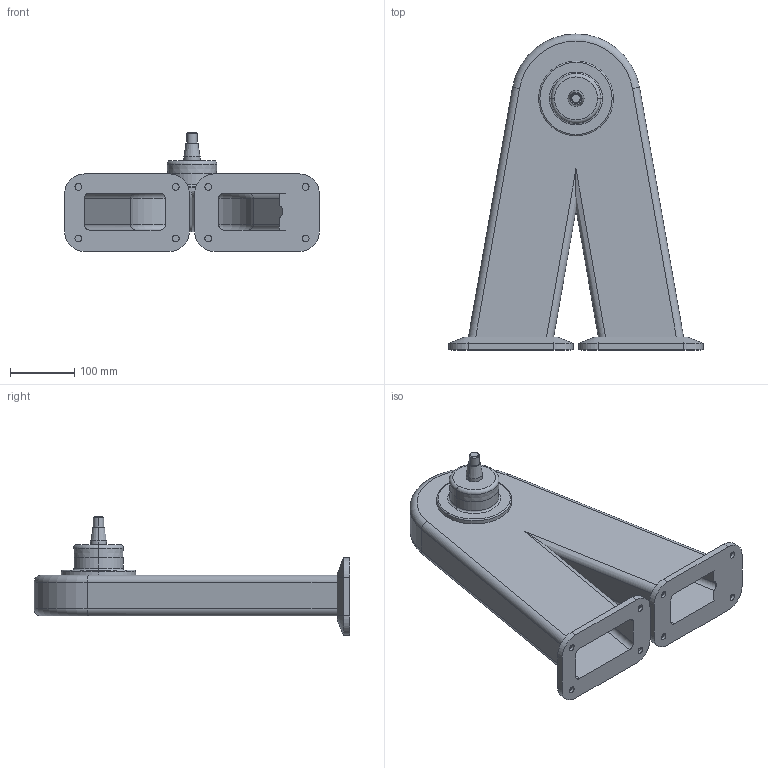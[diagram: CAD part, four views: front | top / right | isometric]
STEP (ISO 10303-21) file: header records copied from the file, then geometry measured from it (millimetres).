
FILE_DESCRIPTION (( 'STEP AP214' ), '1' );
FILE_NAME ('WP850_H390.STEP', '2014-09-08T12:39:14', ( '' ), ( '' ), 'SwSTEP 2.0', 'SolidWorks 2014', '' );
FILE_SCHEMA (( 'AUTOMOTIVE_DESIGN' ));
Length unit declared in the file: millimetre
Products named in the file (1): WP850_H390
Bounding box: 394.56 x 490 x 183.98 mm (x, y, z)
Volume: 1600899.3 mm3; surface area: 678378.8 mm2
Topology: 1 solids, 1 shells, 152 faces, 347 edges, 218 vertices
Faces by surface type: cylinder 76, plane 52, cone 14, torus 10
Entity records: 4347 total; most frequent: DIRECTION 791, CARTESIAN_POINT 778, ORIENTED_EDGE 694, EDGE_CURVE 347, AXIS2_PLACEMENT_3D 311, VERTEX_POINT 218, EDGE_LOOP 185, VECTOR 169
